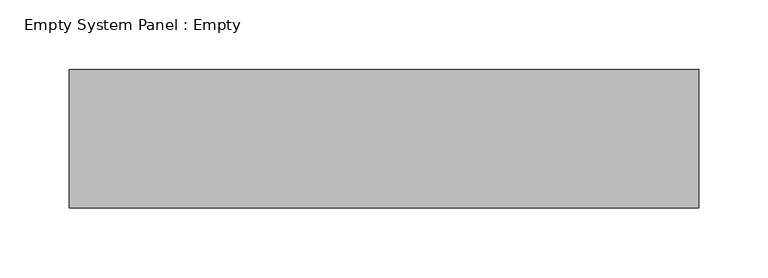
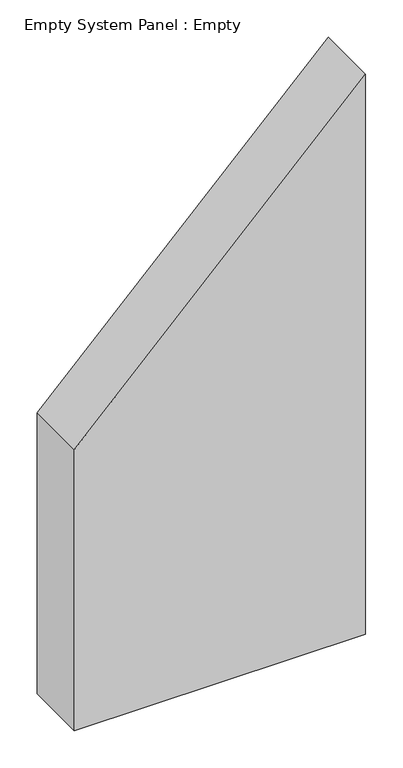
"""IFC4 building model written with IfcOpenShell, lengths in millimetres: plate geometry, Empty System Panel : Empty."""

from ifc_helpers import new_model, si_unit, frame, origin, place, context, project, spatial, polyline, outline, extrude, source, transform, mapped, element, save


def empty_system_panel_empty_2ba5a98a(model_context):
    return source(origin(), model_context, "Body", "SweptSolid", [
        extrude(outline(polyline([(0.0, -226.4404253), (0.0, 226.4404253), (919.6802333, 226.4404253), (461.732814, -226.4404253), (0.0, -226.4404253)])), frame((0.0, -50.0, 0.0), z_axis=(0.0, 1.0, 0.0), x_axis=(0.0, 0.0, 1.0)), (0.0, 0.0, 1.0), 100.0),
    ])


if __name__ == "__main__":
    model = new_model("IFC4")
    model_context = context("Model", 3, world=origin())
    ifc_project = project(units=[si_unit("LENGTHUNIT", "METRE", prefix="MILLI")], contexts=[model_context])
    site = spatial("IfcSite", under=ifc_project)
    building = spatial("IfcBuilding", under=site)
    placement = place(None, origin())
    empty_system_panel_empty_shape = empty_system_panel_empty_2ba5a98a(model_context)
    element("IfcPlate", 1, ObjectType="Empty System Panel : Empty", at=placement, inside=building, context=model_context, shape_type="MappedRepresentation", body=[
        mapped(empty_system_panel_empty_shape, transform((0.0, 0.0, 0.0), x_axis=(1.0, 0.0, 0.0), y_axis=(0.0, 1.0, 0.0), z_axis=(0.0, 0.0, 1.0))),
    ])
    save(model, "model.ifc")
